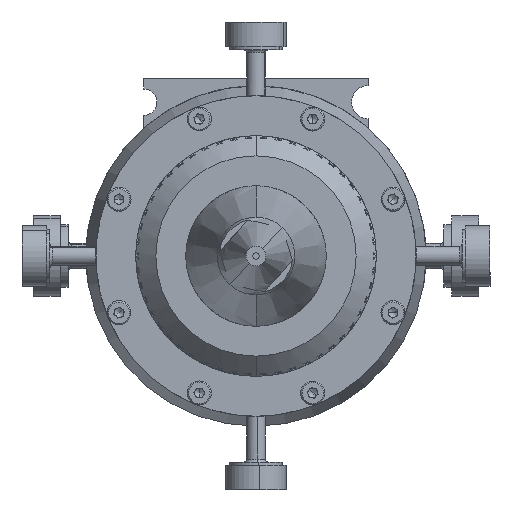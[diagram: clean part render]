
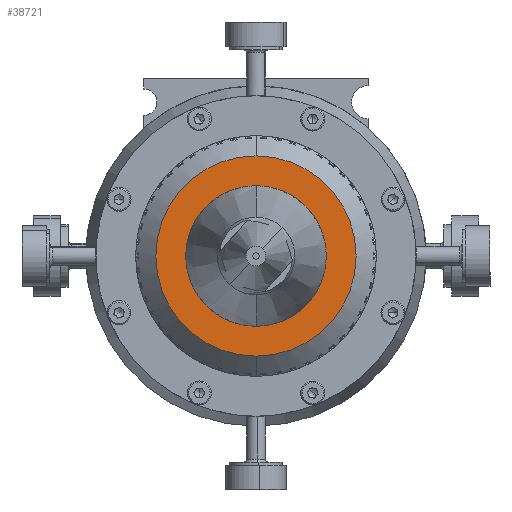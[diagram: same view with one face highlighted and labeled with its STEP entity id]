
A CAD part, front view. The second image highlights one B-rep face of the part: STEP entity #38721.
In plain terms, the highlighted planar face has unit normal (0, -1, 0).
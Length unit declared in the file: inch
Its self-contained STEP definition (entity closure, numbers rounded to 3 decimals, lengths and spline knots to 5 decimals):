
#570 = FACE_BOUND ( 'NONE', #5267, .T. ) ;
#5267 = EDGE_LOOP ( 'NONE', ( #5862, #79013 ) ) ;
#5821 = DIRECTION ( 'NONE',  ( 0., 0., -1. ) ) ;
#5862 = ORIENTED_EDGE ( 'NONE', *, *, #124513, .T. ) ;
#7429 = CARTESIAN_POINT ( 'NONE',  ( 0.4375, -0.65241, 0. ) ) ;
#13851 = CIRCLE ( 'NONE', #63930, 0.625 ) ;
#14527 = DIRECTION ( 'NONE',  ( 0., 0., -1. ) ) ;
#21078 = DIRECTION ( 'NONE',  ( 0., 1., 0. ) ) ;
#21812 = VERTEX_POINT ( 'NONE', #93739 ) ;
#23080 = CARTESIAN_POINT ( 'NONE',  ( 0., -0.65241, 0. ) ) ;
#26460 = CARTESIAN_POINT ( 'NONE',  ( 0., -0.65241, 0. ) ) ;
#27307 = EDGE_CURVE ( 'NONE', #102709, #21812, #13851, .T. ) ;
#34375 = CARTESIAN_POINT ( 'NONE',  ( 0.5, -0.65241, 0. ) ) ;
#37561 = AXIS2_PLACEMENT_3D ( 'NONE', #34375, #92233, #73603 ) ;
#38721 = ADVANCED_FACE ( 'NONE', ( #570, #117701 ), #52487, .T. ) ;
#42383 = AXIS2_PLACEMENT_3D ( 'NONE', #23080, #83087, #14527 ) ;
#46018 = ORIENTED_EDGE ( 'NONE', *, *, #112024, .T. ) ;
#52487 = PLANE ( 'NONE',  #37561 ) ;
#52571 = VERTEX_POINT ( 'NONE', #64485 ) ;
#56835 = AXIS2_PLACEMENT_3D ( 'NONE', #99988, #21078, #59878 ) ;
#59878 = DIRECTION ( 'NONE',  ( 0., 0., -1. ) ) ;
#63930 = AXIS2_PLACEMENT_3D ( 'NONE', #96049, #105863, #117891 ) ;
#64485 = CARTESIAN_POINT ( 'NONE',  ( -0.4375, -0.65241, 0. ) ) ;
#65831 = VERTEX_POINT ( 'NONE', #7429 ) ;
#71553 = CIRCLE ( 'NONE', #56835, 0.4375 ) ;
#71569 = CARTESIAN_POINT ( 'NONE',  ( 0., -0.65241, -0.625 ) ) ;
#73603 = DIRECTION ( 'NONE',  ( 0., 0., -1. ) ) ;
#79013 = ORIENTED_EDGE ( 'NONE', *, *, #114032, .T. ) ;
#79425 = ORIENTED_EDGE ( 'NONE', *, *, #27307, .T. ) ;
#83087 = DIRECTION ( 'NONE',  ( 0., 1., 0. ) ) ;
#92233 = DIRECTION ( 'NONE',  ( 0., -1., 0. ) ) ;
#93739 = CARTESIAN_POINT ( 'NONE',  ( 0., -0.65241, 0.625 ) ) ;
#96049 = CARTESIAN_POINT ( 'NONE',  ( 0., -0.65241, 0. ) ) ;
#96619 = CIRCLE ( 'NONE', #42383, 0.4375 ) ;
#99988 = CARTESIAN_POINT ( 'NONE',  ( 0., -0.65241, 0. ) ) ;
#102709 = VERTEX_POINT ( 'NONE', #71569 ) ;
#105863 = DIRECTION ( 'NONE',  ( 0., -1., 0. ) ) ;
#108993 = EDGE_LOOP ( 'NONE', ( #46018, #79425 ) ) ;
#110325 = CIRCLE ( 'NONE', #126620, 0.625 ) ;
#112024 = EDGE_CURVE ( 'NONE', #21812, #102709, #110325, .T. ) ;
#114032 = EDGE_CURVE ( 'NONE', #65831, #52571, #71553, .T. ) ;
#117701 = FACE_OUTER_BOUND ( 'NONE', #108993, .T. ) ;
#117891 = DIRECTION ( 'NONE',  ( 0., 0., -1. ) ) ;
#123828 = DIRECTION ( 'NONE',  ( 0., -1., 0. ) ) ;
#124513 = EDGE_CURVE ( 'NONE', #52571, #65831, #96619, .T. ) ;
#126620 = AXIS2_PLACEMENT_3D ( 'NONE', #26460, #123828, #5821 ) ;
